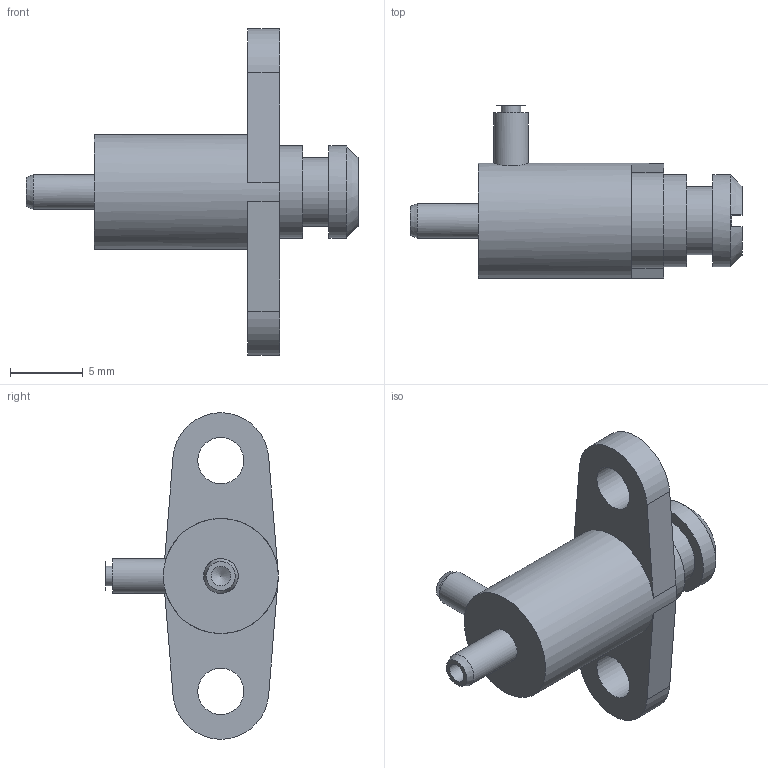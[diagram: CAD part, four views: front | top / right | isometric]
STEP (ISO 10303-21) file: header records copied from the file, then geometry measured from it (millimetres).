
FILE_DESCRIPTION(/* description */ ('SolidWorks IGES file using NURBS representation for surfaces '),/* implementation_level */ '2;1');
FILE_NAME(/* name */ 'K:\Normteile INVENTOR\Air-Logic\Needle Valves\F-2822-51-SS.IGS.ipt.stp',/* time_stamp */ '2020-05-27T10:45:14+02:00',/* author */ ('amarsh'),/* organization */ (''),/* preprocessor_version */ 'ST-DEVELOPER v18',/* originating_system */ 'Autodesk Inventor 2020',/* authorisation */ '');
FILE_SCHEMA (('AUTOMOTIVE_DESIGN { 1 0 10303 214 3 1 1 }'));
Length unit declared in the file: millimetre
Products named in the file (1): F-2822-51-SS.IGS
Bounding box: 22.85 x 11.89 x 22.48 mm (x, y, z)
Volume: 971.3 mm3; surface area: 962.7 mm2
Topology: 2 solids, 2 shells, 35 faces, 102 edges, 75 vertices
Faces by surface type: plane 18, cylinder 12, cone 5
Full cylindrical faces by diameter (mm): 1.35 x2, 2.39 x2, 3.18 x2, 4.7 x1, 6.35 x2, 7.92 x1
Entity records: 1297 total; most frequent: CARTESIAN_POINT 254, DIRECTION 225, ORIENTED_EDGE 200, EDGE_CURVE 100, AXIS2_PLACEMENT_3D 95, VERTEX_POINT 75, CIRCLE 59, EDGE_LOOP 45
